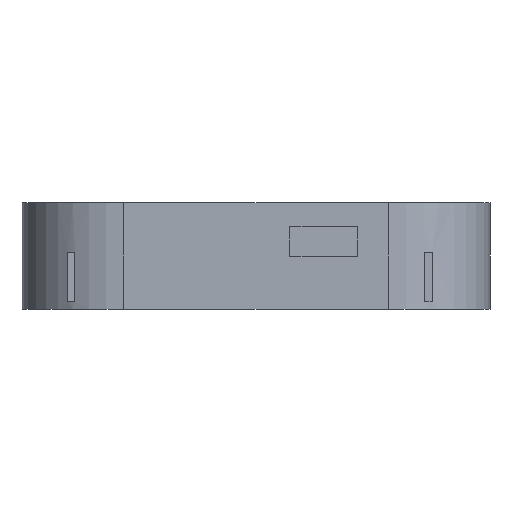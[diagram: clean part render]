
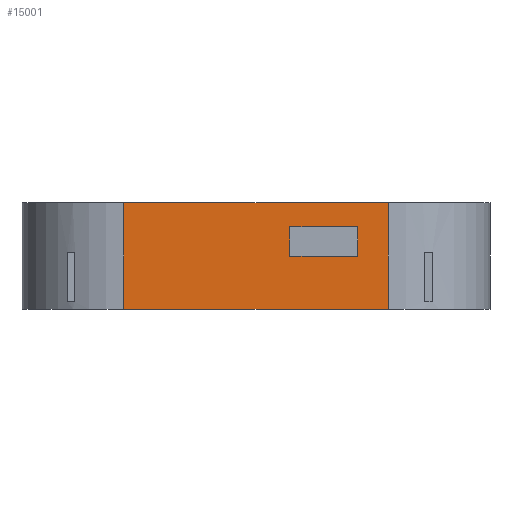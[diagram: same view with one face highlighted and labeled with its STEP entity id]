
A CAD part, front view. The second image highlights one B-rep face of the part: STEP entity #15001.
In plain terms, the highlighted planar face has unit normal (0, -1, 0).
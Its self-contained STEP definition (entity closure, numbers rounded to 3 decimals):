
#6605 = PLANE('',#6606);
#6606 = AXIS2_PLACEMENT_3D('',#6607,#6608,#6609);
#6607 = CARTESIAN_POINT('',(0.,0.,17.3));
#6608 = DIRECTION('',(0.,0.,1.));
#6609 = DIRECTION('',(1.,0.,-0.));
#8115 = CYLINDRICAL_SURFACE('',#8116,16.5);
#8116 = AXIS2_PLACEMENT_3D('',#8117,#8118,#8119);
#8117 = CARTESIAN_POINT('',(21.5,0.,0.));
#8118 = DIRECTION('',(-0.,-0.,-1.));
#8119 = DIRECTION('',(1.,0.,0.));
#9094 = PLANE('',#9095);
#9095 = AXIS2_PLACEMENT_3D('',#9096,#9097,#9098);
#9096 = CARTESIAN_POINT('',(5.5,-18.5,13.4));
#9097 = DIRECTION('',(0.,0.,1.));
#9098 = DIRECTION('',(1.,0.,0.));
#9120 = PLANE('',#9121);
#9121 = AXIS2_PLACEMENT_3D('',#9122,#9123,#9124);
#9122 = CARTESIAN_POINT('',(5.5,-18.5,8.6));
#9123 = DIRECTION('',(1.,0.,0.));
#9124 = DIRECTION('',(0.,0.,1.));
#9146 = PLANE('',#9147);
#9147 = AXIS2_PLACEMENT_3D('',#9148,#9149,#9150);
#9148 = CARTESIAN_POINT('',(5.5,-18.5,8.6));
#9149 = DIRECTION('',(0.,0.,1.));
#9150 = DIRECTION('',(1.,0.,0.));
#9170 = PLANE('',#9171);
#9171 = AXIS2_PLACEMENT_3D('',#9172,#9173,#9174);
#9172 = CARTESIAN_POINT('',(16.5,-18.5,8.6));
#9173 = DIRECTION('',(1.,0.,0.));
#9174 = DIRECTION('',(0.,0.,1.));
#12234 = EDGE_CURVE('',#12235,#12237,#12239,.T.);
#12235 = VERTEX_POINT('',#12236);
#12236 = CARTESIAN_POINT('',(-21.5,-16.5,17.3));
#12237 = VERTEX_POINT('',#12238);
#12238 = CARTESIAN_POINT('',(21.5,-16.5,17.3));
#12239 = SURFACE_CURVE('',#12240,(#12244,#12251),.PCURVE_S1.);
#12240 = LINE('',#12241,#12242);
#12241 = CARTESIAN_POINT('',(-21.5,-16.5,17.3));
#12242 = VECTOR('',#12243,1.);
#12243 = DIRECTION('',(1.,0.,0.));
#12244 = PCURVE('',#6605,#12245);
#12245 = DEFINITIONAL_REPRESENTATION('',(#12246),#12250);
#12246 = LINE('',#12247,#12248);
#12247 = CARTESIAN_POINT('',(-21.5,-16.5));
#12248 = VECTOR('',#12249,1.);
#12249 = DIRECTION('',(1.,0.));
#12250 = ( GEOMETRIC_REPRESENTATION_CONTEXT(2) 
PARAMETRIC_REPRESENTATION_CONTEXT() REPRESENTATION_CONTEXT('2D SPACE',''
  ) );
#12251 = PCURVE('',#12252,#12257);
#12252 = PLANE('',#12253);
#12253 = AXIS2_PLACEMENT_3D('',#12254,#12255,#12256);
#12254 = CARTESIAN_POINT('',(-21.5,-16.5,0.));
#12255 = DIRECTION('',(0.,1.,0.));
#12256 = DIRECTION('',(1.,0.,0.));
#12257 = DEFINITIONAL_REPRESENTATION('',(#12258),#12262);
#12258 = LINE('',#12259,#12260);
#12259 = CARTESIAN_POINT('',(0.,-17.3));
#12260 = VECTOR('',#12261,1.);
#12261 = DIRECTION('',(1.,0.));
#12262 = ( GEOMETRIC_REPRESENTATION_CONTEXT(2) 
PARAMETRIC_REPRESENTATION_CONTEXT() REPRESENTATION_CONTEXT('2D SPACE',''
  ) );
#12330 = CYLINDRICAL_SURFACE('',#12331,16.5);
#12331 = AXIS2_PLACEMENT_3D('',#12332,#12333,#12334);
#12332 = CARTESIAN_POINT('',(-21.5,0.,0.));
#12333 = DIRECTION('',(-0.,-0.,-1.));
#12334 = DIRECTION('',(1.,0.,0.));
#13333 = PLANE('',#13334);
#13334 = AXIS2_PLACEMENT_3D('',#13335,#13336,#13337);
#13335 = CARTESIAN_POINT('',(0.,0.,0.));
#13336 = DIRECTION('',(0.,0.,1.));
#13337 = DIRECTION('',(1.,0.,-0.));
#13645 = VERTEX_POINT('',#13646);
#13646 = CARTESIAN_POINT('',(21.5,-16.5,0.));
#13668 = EDGE_CURVE('',#13645,#12237,#13669,.T.);
#13669 = SURFACE_CURVE('',#13670,(#13674,#13681),.PCURVE_S1.);
#13670 = LINE('',#13671,#13672);
#13671 = CARTESIAN_POINT('',(21.5,-16.5,0.));
#13672 = VECTOR('',#13673,1.);
#13673 = DIRECTION('',(0.,0.,1.));
#13674 = PCURVE('',#8115,#13675);
#13675 = DEFINITIONAL_REPRESENTATION('',(#13676),#13680);
#13676 = LINE('',#13677,#13678);
#13677 = CARTESIAN_POINT('',(-4.712,0.));
#13678 = VECTOR('',#13679,1.);
#13679 = DIRECTION('',(-0.,-1.));
#13680 = ( GEOMETRIC_REPRESENTATION_CONTEXT(2) 
PARAMETRIC_REPRESENTATION_CONTEXT() REPRESENTATION_CONTEXT('2D SPACE',''
  ) );
#13681 = PCURVE('',#12252,#13682);
#13682 = DEFINITIONAL_REPRESENTATION('',(#13683),#13687);
#13683 = LINE('',#13684,#13685);
#13684 = CARTESIAN_POINT('',(43.,0.));
#13685 = VECTOR('',#13686,1.);
#13686 = DIRECTION('',(0.,-1.));
#13687 = ( GEOMETRIC_REPRESENTATION_CONTEXT(2) 
PARAMETRIC_REPRESENTATION_CONTEXT() REPRESENTATION_CONTEXT('2D SPACE',''
  ) );
#14143 = VERTEX_POINT('',#14144);
#14144 = CARTESIAN_POINT('',(5.5,-16.5,13.4));
#14165 = EDGE_CURVE('',#14143,#14166,#14168,.T.);
#14166 = VERTEX_POINT('',#14167);
#14167 = CARTESIAN_POINT('',(16.5,-16.5,13.4));
#14168 = SURFACE_CURVE('',#14169,(#14173,#14179),.PCURVE_S1.);
#14169 = LINE('',#14170,#14171);
#14170 = CARTESIAN_POINT('',(-8.,-16.5,13.4));
#14171 = VECTOR('',#14172,1.);
#14172 = DIRECTION('',(1.,0.,0.));
#14173 = PCURVE('',#9094,#14174);
#14174 = DEFINITIONAL_REPRESENTATION('',(#14175),#14178);
#14175 = B_SPLINE_CURVE_WITH_KNOTS('',1,(#14176,#14177),.UNSPECIFIED.,
  .F.,.F.,(2,2),(13.5,24.5),.PIECEWISE_BEZIER_KNOTS.);
#14176 = CARTESIAN_POINT('',(0.,2.));
#14177 = CARTESIAN_POINT('',(11.,2.));
#14178 = ( GEOMETRIC_REPRESENTATION_CONTEXT(2) 
PARAMETRIC_REPRESENTATION_CONTEXT() REPRESENTATION_CONTEXT('2D SPACE',''
  ) );
#14179 = PCURVE('',#12252,#14180);
#14180 = DEFINITIONAL_REPRESENTATION('',(#14181),#14184);
#14181 = B_SPLINE_CURVE_WITH_KNOTS('',1,(#14182,#14183),.UNSPECIFIED.,
  .F.,.F.,(2,2),(13.5,24.5),.PIECEWISE_BEZIER_KNOTS.);
#14182 = CARTESIAN_POINT('',(27.,-13.4));
#14183 = CARTESIAN_POINT('',(38.,-13.4));
#14184 = ( GEOMETRIC_REPRESENTATION_CONTEXT(2) 
PARAMETRIC_REPRESENTATION_CONTEXT() REPRESENTATION_CONTEXT('2D SPACE',''
  ) );
#14212 = EDGE_CURVE('',#14166,#14213,#14215,.T.);
#14213 = VERTEX_POINT('',#14214);
#14214 = CARTESIAN_POINT('',(16.5,-16.5,8.6));
#14215 = SURFACE_CURVE('',#14216,(#14220,#14226),.PCURVE_S1.);
#14216 = LINE('',#14217,#14218);
#14217 = CARTESIAN_POINT('',(16.5,-16.5,4.3));
#14218 = VECTOR('',#14219,1.);
#14219 = DIRECTION('',(0.,0.,-1.));
#14220 = PCURVE('',#9170,#14221);
#14221 = DEFINITIONAL_REPRESENTATION('',(#14222),#14225);
#14222 = B_SPLINE_CURVE_WITH_KNOTS('',1,(#14223,#14224),.UNSPECIFIED.,
  .F.,.F.,(2,2),(-9.1,-4.3),.PIECEWISE_BEZIER_KNOTS.);
#14223 = CARTESIAN_POINT('',(4.8,-2.));
#14224 = CARTESIAN_POINT('',(0.,-2.));
#14225 = ( GEOMETRIC_REPRESENTATION_CONTEXT(2) 
PARAMETRIC_REPRESENTATION_CONTEXT() REPRESENTATION_CONTEXT('2D SPACE',''
  ) );
#14226 = PCURVE('',#12252,#14227);
#14227 = DEFINITIONAL_REPRESENTATION('',(#14228),#14231);
#14228 = B_SPLINE_CURVE_WITH_KNOTS('',1,(#14229,#14230),.UNSPECIFIED.,
  .F.,.F.,(2,2),(-9.1,-4.3),.PIECEWISE_BEZIER_KNOTS.);
#14229 = CARTESIAN_POINT('',(38.,-13.4));
#14230 = CARTESIAN_POINT('',(38.,-8.6));
#14231 = ( GEOMETRIC_REPRESENTATION_CONTEXT(2) 
PARAMETRIC_REPRESENTATION_CONTEXT() REPRESENTATION_CONTEXT('2D SPACE',''
  ) );
#14259 = VERTEX_POINT('',#14260);
#14260 = CARTESIAN_POINT('',(5.5,-16.5,8.6));
#14281 = EDGE_CURVE('',#14259,#14213,#14282,.T.);
#14282 = SURFACE_CURVE('',#14283,(#14287,#14293),.PCURVE_S1.);
#14283 = LINE('',#14284,#14285);
#14284 = CARTESIAN_POINT('',(-8.,-16.5,8.6));
#14285 = VECTOR('',#14286,1.);
#14286 = DIRECTION('',(1.,0.,0.));
#14287 = PCURVE('',#9146,#14288);
#14288 = DEFINITIONAL_REPRESENTATION('',(#14289),#14292);
#14289 = B_SPLINE_CURVE_WITH_KNOTS('',1,(#14290,#14291),.UNSPECIFIED.,
  .F.,.F.,(2,2),(13.5,24.5),.PIECEWISE_BEZIER_KNOTS.);
#14290 = CARTESIAN_POINT('',(0.,2.));
#14291 = CARTESIAN_POINT('',(11.,2.));
#14292 = ( GEOMETRIC_REPRESENTATION_CONTEXT(2) 
PARAMETRIC_REPRESENTATION_CONTEXT() REPRESENTATION_CONTEXT('2D SPACE',''
  ) );
#14293 = PCURVE('',#12252,#14294);
#14294 = DEFINITIONAL_REPRESENTATION('',(#14295),#14298);
#14295 = B_SPLINE_CURVE_WITH_KNOTS('',1,(#14296,#14297),.UNSPECIFIED.,
  .F.,.F.,(2,2),(13.5,24.5),.PIECEWISE_BEZIER_KNOTS.);
#14296 = CARTESIAN_POINT('',(27.,-8.6));
#14297 = CARTESIAN_POINT('',(38.,-8.6));
#14298 = ( GEOMETRIC_REPRESENTATION_CONTEXT(2) 
PARAMETRIC_REPRESENTATION_CONTEXT() REPRESENTATION_CONTEXT('2D SPACE',''
  ) );
#14306 = EDGE_CURVE('',#14143,#14259,#14307,.T.);
#14307 = SURFACE_CURVE('',#14308,(#14312,#14318),.PCURVE_S1.);
#14308 = LINE('',#14309,#14310);
#14309 = CARTESIAN_POINT('',(5.5,-16.5,4.3));
#14310 = VECTOR('',#14311,1.);
#14311 = DIRECTION('',(0.,0.,-1.));
#14312 = PCURVE('',#9120,#14313);
#14313 = DEFINITIONAL_REPRESENTATION('',(#14314),#14317);
#14314 = B_SPLINE_CURVE_WITH_KNOTS('',1,(#14315,#14316),.UNSPECIFIED.,
  .F.,.F.,(2,2),(-9.1,-4.3),.PIECEWISE_BEZIER_KNOTS.);
#14315 = CARTESIAN_POINT('',(4.8,-2.));
#14316 = CARTESIAN_POINT('',(0.,-2.));
#14317 = ( GEOMETRIC_REPRESENTATION_CONTEXT(2) 
PARAMETRIC_REPRESENTATION_CONTEXT() REPRESENTATION_CONTEXT('2D SPACE',''
  ) );
#14318 = PCURVE('',#12252,#14319);
#14319 = DEFINITIONAL_REPRESENTATION('',(#14320),#14323);
#14320 = B_SPLINE_CURVE_WITH_KNOTS('',1,(#14321,#14322),.UNSPECIFIED.,
  .F.,.F.,(2,2),(-9.1,-4.3),.PIECEWISE_BEZIER_KNOTS.);
#14321 = CARTESIAN_POINT('',(27.,-13.4));
#14322 = CARTESIAN_POINT('',(27.,-8.6));
#14323 = ( GEOMETRIC_REPRESENTATION_CONTEXT(2) 
PARAMETRIC_REPRESENTATION_CONTEXT() REPRESENTATION_CONTEXT('2D SPACE',''
  ) );
#15001 = ADVANCED_FACE('',(#15002,#15050),#12252,.F.);
#15002 = FACE_BOUND('',#15003,.F.);
#15003 = EDGE_LOOP('',(#15004,#15027,#15028,#15029));
#15004 = ORIENTED_EDGE('',*,*,#15005,.T.);
#15005 = EDGE_CURVE('',#15006,#12235,#15008,.T.);
#15006 = VERTEX_POINT('',#15007);
#15007 = CARTESIAN_POINT('',(-21.5,-16.5,0.));
#15008 = SURFACE_CURVE('',#15009,(#15013,#15020),.PCURVE_S1.);
#15009 = LINE('',#15010,#15011);
#15010 = CARTESIAN_POINT('',(-21.5,-16.5,0.));
#15011 = VECTOR('',#15012,1.);
#15012 = DIRECTION('',(0.,0.,1.));
#15013 = PCURVE('',#12252,#15014);
#15014 = DEFINITIONAL_REPRESENTATION('',(#15015),#15019);
#15015 = LINE('',#15016,#15017);
#15016 = CARTESIAN_POINT('',(0.,0.));
#15017 = VECTOR('',#15018,1.);
#15018 = DIRECTION('',(0.,-1.));
#15019 = ( GEOMETRIC_REPRESENTATION_CONTEXT(2) 
PARAMETRIC_REPRESENTATION_CONTEXT() REPRESENTATION_CONTEXT('2D SPACE',''
  ) );
#15020 = PCURVE('',#12330,#15021);
#15021 = DEFINITIONAL_REPRESENTATION('',(#15022),#15026);
#15022 = LINE('',#15023,#15024);
#15023 = CARTESIAN_POINT('',(-4.712,0.));
#15024 = VECTOR('',#15025,1.);
#15025 = DIRECTION('',(-0.,-1.));
#15026 = ( GEOMETRIC_REPRESENTATION_CONTEXT(2) 
PARAMETRIC_REPRESENTATION_CONTEXT() REPRESENTATION_CONTEXT('2D SPACE',''
  ) );
#15027 = ORIENTED_EDGE('',*,*,#12234,.T.);
#15028 = ORIENTED_EDGE('',*,*,#13668,.F.);
#15029 = ORIENTED_EDGE('',*,*,#15030,.F.);
#15030 = EDGE_CURVE('',#15006,#13645,#15031,.T.);
#15031 = SURFACE_CURVE('',#15032,(#15036,#15043),.PCURVE_S1.);
#15032 = LINE('',#15033,#15034);
#15033 = CARTESIAN_POINT('',(-21.5,-16.5,0.));
#15034 = VECTOR('',#15035,1.);
#15035 = DIRECTION('',(1.,0.,0.));
#15036 = PCURVE('',#12252,#15037);
#15037 = DEFINITIONAL_REPRESENTATION('',(#15038),#15042);
#15038 = LINE('',#15039,#15040);
#15039 = CARTESIAN_POINT('',(0.,0.));
#15040 = VECTOR('',#15041,1.);
#15041 = DIRECTION('',(1.,0.));
#15042 = ( GEOMETRIC_REPRESENTATION_CONTEXT(2) 
PARAMETRIC_REPRESENTATION_CONTEXT() REPRESENTATION_CONTEXT('2D SPACE',''
  ) );
#15043 = PCURVE('',#13333,#15044);
#15044 = DEFINITIONAL_REPRESENTATION('',(#15045),#15049);
#15045 = LINE('',#15046,#15047);
#15046 = CARTESIAN_POINT('',(-21.5,-16.5));
#15047 = VECTOR('',#15048,1.);
#15048 = DIRECTION('',(1.,0.));
#15049 = ( GEOMETRIC_REPRESENTATION_CONTEXT(2) 
PARAMETRIC_REPRESENTATION_CONTEXT() REPRESENTATION_CONTEXT('2D SPACE',''
  ) );
#15050 = FACE_BOUND('',#15051,.F.);
#15051 = EDGE_LOOP('',(#15052,#15053,#15054,#15055));
#15052 = ORIENTED_EDGE('',*,*,#14165,.F.);
#15053 = ORIENTED_EDGE('',*,*,#14306,.T.);
#15054 = ORIENTED_EDGE('',*,*,#14281,.T.);
#15055 = ORIENTED_EDGE('',*,*,#14212,.F.);
